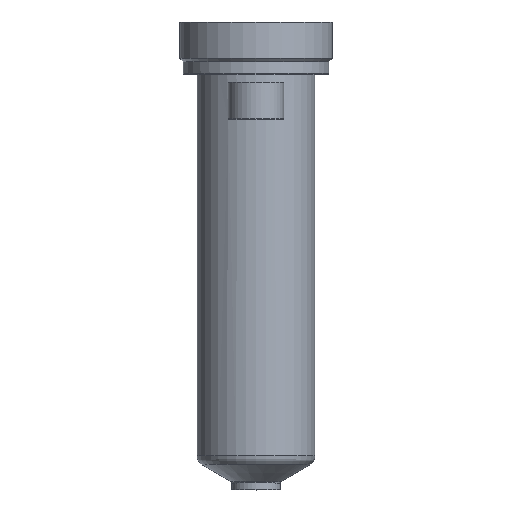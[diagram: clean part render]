
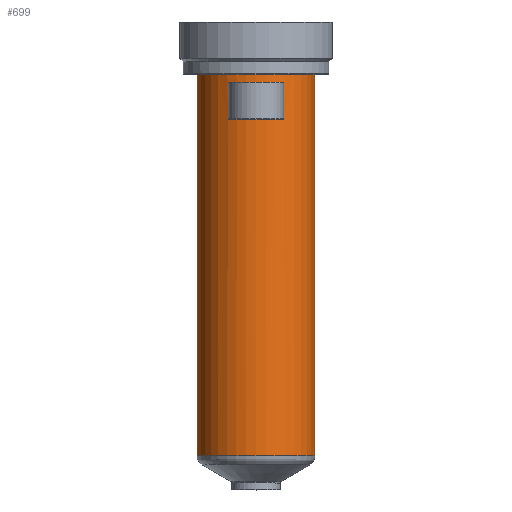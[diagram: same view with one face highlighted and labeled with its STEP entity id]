
A CAD part, top view. The second image highlights one B-rep face of the part: STEP entity #699.
In plain terms, the highlighted cylindrical face has radius 17 mm (diameter 34 mm), a partial arc.
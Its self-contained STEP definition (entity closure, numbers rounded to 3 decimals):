
#191=DIRECTION('',(0.,-1.,0.));
#192=VECTOR('',#191,110.206);
#193=CARTESIAN_POINT('',(17.,0.,0.));
#194=LINE('',#193,#192);
#195=CARTESIAN_POINT('',(0.,-110.206,0.));
#196=DIRECTION('',(0.,1.,0.));
#197=DIRECTION('',(-1.,0.,0.));
#198=AXIS2_PLACEMENT_3D('',#195,#196,#197);
#200=DIRECTION('',(0.,1.,0.));
#201=VECTOR('',#200,110.206);
#202=CARTESIAN_POINT('',(-17.,-110.206,0.));
#203=LINE('',#202,#201);
#204=CARTESIAN_POINT('',(0.,0.,0.));
#205=DIRECTION('',(0.,1.,0.));
#206=DIRECTION('',(-1.,0.,0.));
#207=AXIS2_PLACEMENT_3D('',#204,#205,#206);
#285=DIRECTION('',(0.,1.,0.));
#286=VECTOR('',#285,10.5);
#287=CARTESIAN_POINT('',(-8.,-13.,15.));
#288=LINE('',#287,#286);
#289=CARTESIAN_POINT('',(0.,-13.,0.));
#290=DIRECTION('',(0.,1.,0.));
#291=DIRECTION('',(-0.471,0.,0.882));
#292=AXIS2_PLACEMENT_3D('',#289,#290,#291);
#315=CARTESIAN_POINT('',(0.,-2.5,0.));
#316=DIRECTION('',(0.,-1.,0.));
#317=DIRECTION('',(0.471,0.,0.882));
#318=AXIS2_PLACEMENT_3D('',#315,#316,#317);
#333=DIRECTION('',(0.,1.,0.));
#334=VECTOR('',#333,10.5);
#335=CARTESIAN_POINT('',(8.,-13.,15.));
#336=LINE('',#335,#334);
#394=CARTESIAN_POINT('',(-17.,0.,0.));
#395=CARTESIAN_POINT('',(17.,0.,0.));
#396=VERTEX_POINT('',#394);
#397=VERTEX_POINT('',#395);
#406=CARTESIAN_POINT('',(-8.,-2.5,15.));
#407=VERTEX_POINT('',#406);
#408=CARTESIAN_POINT('',(8.,-2.5,15.));
#409=VERTEX_POINT('',#408);
#446=CARTESIAN_POINT('',(17.,-110.206,0.));
#447=VERTEX_POINT('',#446);
#456=CARTESIAN_POINT('',(-17.,-110.206,0.));
#457=VERTEX_POINT('',#456);
#458=CARTESIAN_POINT('',(-8.,-13.,15.));
#459=CARTESIAN_POINT('',(8.,-13.,15.));
#460=VERTEX_POINT('',#458);
#461=VERTEX_POINT('',#459);
#677=CARTESIAN_POINT('',(0.,16.4,0.));
#678=DIRECTION('',(0.,-1.,0.));
#679=DIRECTION('',(-1.,0.,0.));
#680=AXIS2_PLACEMENT_3D('',#677,#678,#679);
#681=CYLINDRICAL_SURFACE('',#680,17.);
#682=ORIENTED_EDGE('',*,*,#671,.T.);
#684=ORIENTED_EDGE('',*,*,#683,.F.);
#685=ORIENTED_EDGE('',*,*,#667,.T.);
#686=ORIENTED_EDGE('',*,*,#657,.T.);
#687=EDGE_LOOP('',(#682,#684,#685,#686));
#688=FACE_OUTER_BOUND('',#687,.F.);
#690=ORIENTED_EDGE('',*,*,#689,.F.);
#692=ORIENTED_EDGE('',*,*,#691,.T.);
#694=ORIENTED_EDGE('',*,*,#693,.T.);
#696=ORIENTED_EDGE('',*,*,#695,.T.);
#697=EDGE_LOOP('',(#690,#692,#694,#696));
#698=FACE_BOUND('',#697,.F.);
#699=ADVANCED_FACE('',(#688,#698),#681,.T.);
#199=CIRCLE('',#198,17.);
#208=CIRCLE('',#207,17.);
#293=CIRCLE('',#292,17.);
#319=CIRCLE('',#318,17.);
#657=EDGE_CURVE('',#396,#397,#208,.T.);
#667=EDGE_CURVE('',#457,#396,#203,.T.);
#671=EDGE_CURVE('',#397,#447,#194,.T.);
#683=EDGE_CURVE('',#457,#447,#199,.T.);
#689=EDGE_CURVE('',#460,#407,#288,.T.);
#691=EDGE_CURVE('',#460,#461,#293,.T.);
#693=EDGE_CURVE('',#461,#409,#336,.T.);
#695=EDGE_CURVE('',#409,#407,#319,.T.);
